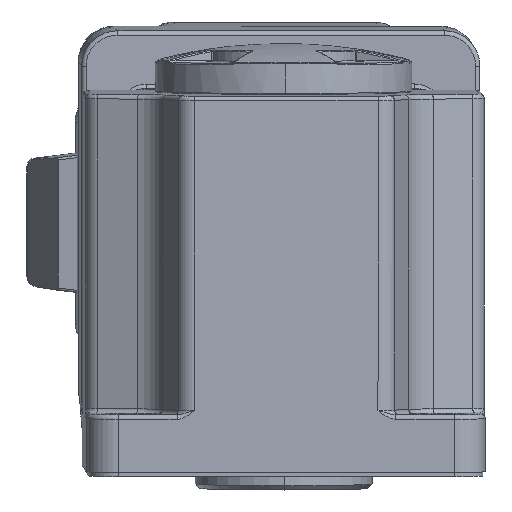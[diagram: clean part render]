
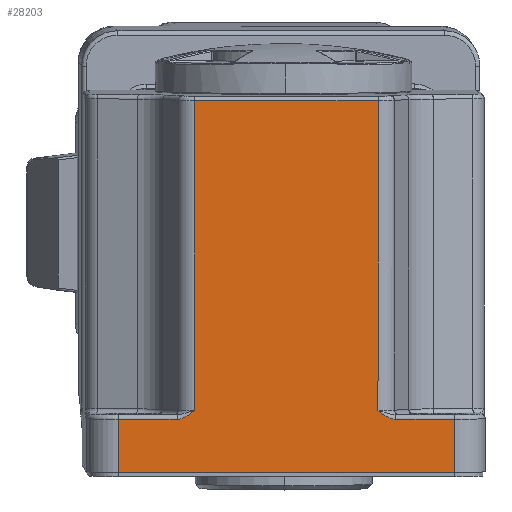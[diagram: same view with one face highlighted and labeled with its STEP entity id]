
A CAD part, top view. The second image highlights one B-rep face of the part: STEP entity #28203.
In plain terms, the highlighted planar face has unit normal (0.014, -0.021, 1) as drawn and (1, 0, 0) by its records, which use the part's own axes.
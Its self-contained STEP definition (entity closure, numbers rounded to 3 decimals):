
#14836=DIRECTION('',(0.,0.,1.));
#14837=VECTOR('',#14836,76.);
#14838=CARTESIAN_POINT('',(2776.292,-828.157,-38.));
#14839=LINE('',#14838,#14837);
#16059=DIRECTION('',(0.,-1.,0.));
#16060=VECTOR('',#16059,12.);
#16061=CARTESIAN_POINT('',(2776.292,-816.157,-38.));
#16062=LINE('',#16061,#16060);
#16063=CARTESIAN_POINT('',(2776.292,-816.157,
-24.695));
#16064=CARTESIAN_POINT('',(2776.292,-816.144,
-24.396));
#16065=CARTESIAN_POINT('',(2776.292,-816.038,
-23.778));
#16066=CARTESIAN_POINT('',(2776.292,-815.674,
-22.766));
#16067=CARTESIAN_POINT('',(2776.292,-815.005,
-21.753));
#16068=CARTESIAN_POINT('',(2776.292,-814.462,
-21.051));
#16069=CARTESIAN_POINT('',(2776.292,-814.157,
-20.695));
#16075=DIRECTION('',(0.,-1.,0.));
#16076=VECTOR('',#16075,70.);
#16077=CARTESIAN_POINT('',(2776.292,-744.157,
-20.695));
#16078=LINE('',#16077,#16076);
#16202=DIRECTION('',(0.,0.,-1.));
#16203=VECTOR('',#16202,13.305);
#16204=CARTESIAN_POINT('',(2776.292,-816.157,
-24.695));
#16205=LINE('',#16204,#16203);
#16371=DIRECTION('',(0.,0.,-1.));
#16372=VECTOR('',#16371,41.391);
#16373=CARTESIAN_POINT('',(2776.292,-744.157,
20.695));
#16374=LINE('',#16373,#16372);
#16394=DIRECTION('',(0.,1.,0.));
#16395=VECTOR('',#16394,70.);
#16396=CARTESIAN_POINT('',(2776.292,-814.157,
20.695));
#16397=LINE('',#16396,#16395);
#16544=DIRECTION('',(0.,0.,-1.));
#16545=VECTOR('',#16544,13.305);
#16546=CARTESIAN_POINT('',(2776.292,-816.157,38.));
#16547=LINE('',#16546,#16545);
#16548=CARTESIAN_POINT('',(2776.292,-816.157,
24.695));
#16549=CARTESIAN_POINT('',(2776.292,-816.158,
24.396));
#16550=CARTESIAN_POINT('',(2776.292,-816.071,
23.777));
#16551=CARTESIAN_POINT('',(2776.292,-815.675,
22.772));
#16552=CARTESIAN_POINT('',(2776.292,-815.014,
21.753));
#16553=CARTESIAN_POINT('',(2776.292,-814.465,
21.051));
#16554=CARTESIAN_POINT('',(2776.292,-814.157,
20.695));
#16561=DIRECTION('',(0.,1.,0.));
#16562=VECTOR('',#16561,12.);
#16563=CARTESIAN_POINT('',(2776.292,-828.157,38.));
#16564=LINE('',#16563,#16562);
#21984=CARTESIAN_POINT('',(2776.292,-828.157,-38.));
#21985=VERTEX_POINT('',#21984);
#21986=CARTESIAN_POINT('',(2776.292,-828.157,38.));
#21987=VERTEX_POINT('',#21986);
#21988=CARTESIAN_POINT('',(2776.292,-816.157,-38.));
#21989=VERTEX_POINT('',#21988);
#21990=CARTESIAN_POINT('',(2776.292,-744.157,
-20.695));
#21991=CARTESIAN_POINT('',(2776.292,-814.157,
-20.695));
#21992=VERTEX_POINT('',#21990);
#21993=VERTEX_POINT('',#21991);
#21994=CARTESIAN_POINT('',(2776.292,-744.157,
20.695));
#21995=VERTEX_POINT('',#21994);
#21996=CARTESIAN_POINT('',(2776.292,-814.157,
20.695));
#21997=VERTEX_POINT('',#21996);
#21998=VERTEX_POINT('',#16548);
#21999=CARTESIAN_POINT('',(2776.292,-816.157,38.));
#22000=VERTEX_POINT('',#21999);
#22001=CARTESIAN_POINT('',(2776.292,-816.157,
-24.695));
#22002=VERTEX_POINT('',#22001);
#28178=CARTESIAN_POINT('',(2776.292,-673.878,38.));
#28179=DIRECTION('',(-1.,0.,0.));
#28180=DIRECTION('',(0.,0.,1.));
#28181=AXIS2_PLACEMENT_3D('',#28178,#28179,#28180);
#28182=PLANE('',#28181);
#28184=ORIENTED_EDGE('',*,*,#28183,.T.);
#28186=ORIENTED_EDGE('',*,*,#28185,.F.);
#28188=ORIENTED_EDGE('',*,*,#28187,.T.);
#28189=ORIENTED_EDGE('',*,*,#28171,.T.);
#28190=ORIENTED_EDGE('',*,*,#26095,.T.);
#28192=ORIENTED_EDGE('',*,*,#28191,.T.);
#28194=ORIENTED_EDGE('',*,*,#28193,.T.);
#28196=ORIENTED_EDGE('',*,*,#28195,.T.);
#28198=ORIENTED_EDGE('',*,*,#28197,.T.);
#28200=ORIENTED_EDGE('',*,*,#28199,.T.);
#28201=EDGE_LOOP('',(#28184,#28186,#28188,#28189,#28190,#28192,#28194,#28196,
#28198,#28200));
#28202=FACE_OUTER_BOUND('',#28201,.F.);
#16070=B_SPLINE_CURVE_WITH_KNOTS('',3,(#16063,#16064,#16065,#16066,#16067,
#16068,#16069),.UNSPECIFIED.,.F.,.F.,(4,1,1,1,4),(0.,0.25,0.5,0.75,
1.),.UNSPECIFIED.);
#16555=B_SPLINE_CURVE_WITH_KNOTS('',3,(#16548,#16549,#16550,#16551,#16552,
#16553,#16554),.UNSPECIFIED.,.F.,.F.,(4,1,1,1,4),(0.,0.25,0.5,0.75,
1.),.UNSPECIFIED.);
#26095=EDGE_CURVE('',#21985,#21987,#14839,.T.);
#28171=EDGE_CURVE('',#21989,#21985,#16062,.T.);
#28183=EDGE_CURVE('',#21992,#21993,#16078,.T.);
#28185=EDGE_CURVE('',#22002,#21993,#16070,.T.);
#28187=EDGE_CURVE('',#22002,#21989,#16205,.T.);
#28191=EDGE_CURVE('',#21987,#22000,#16564,.T.);
#28193=EDGE_CURVE('',#22000,#21998,#16547,.T.);
#28195=EDGE_CURVE('',#21998,#21997,#16555,.T.);
#28197=EDGE_CURVE('',#21997,#21995,#16397,.T.);
#28199=EDGE_CURVE('',#21995,#21992,#16374,.T.);
#28203=ADVANCED_FACE('',(#28202),#28182,.F.);
